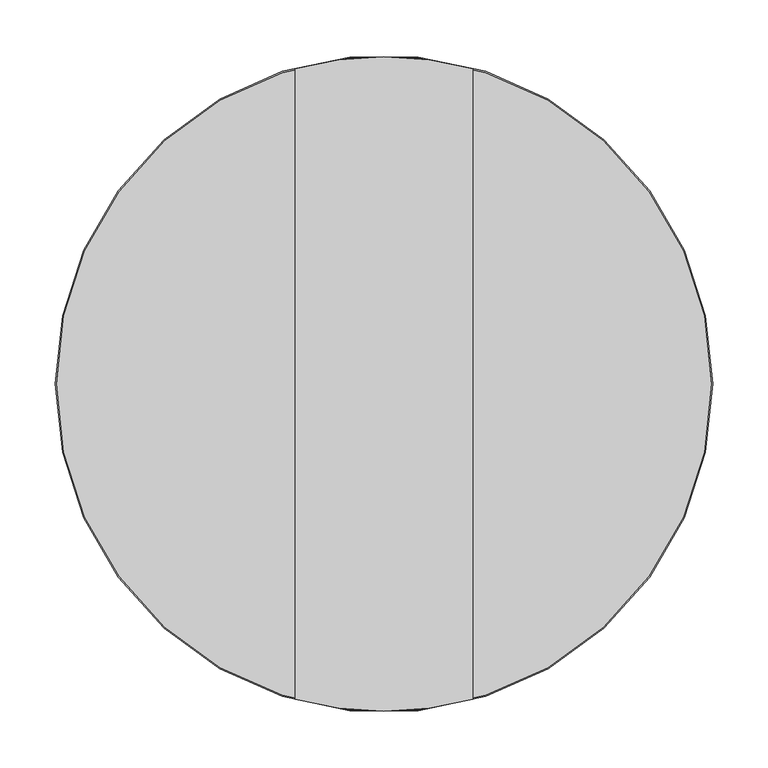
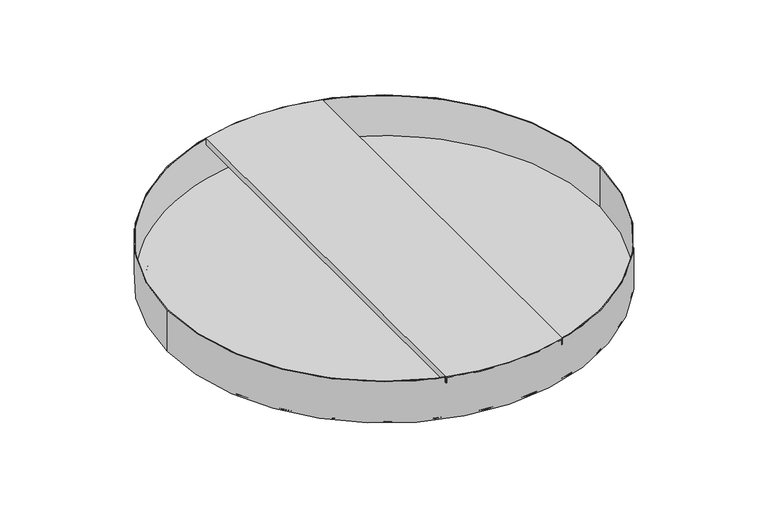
"""IFC4 building model written with IfcOpenShell, lengths in millimetres: proxy geometry, durlum_TOMEO-R : durlum_TOMEO-R 600 WS."""

from ifc_helpers import new_model, si_unit, point, frame, origin, origin_with_axes, origin_2d, place, context, project, spatial, circle_curve, trimmed, segment, composite_curve, outline, extrude, source, transform, mapped, element, save
from ifc_brep_helpers import plane_surface, cylinder_surface, advanced_brep


def generic_models_a7a96dfa(model_context):
    return source(origin(), model_context, "Body", "SolidModel", [
        advanced_brep(
        [(-80.0, 284.4648484, 60.0), (-80.0, -284.4648484, 60.0), (0.0, -295.5, 60.0), (80.0, -284.4648484, 60.0), (80.0, 284.4648484, 60.0), (0.0, 295.5, 60.0), (80.0, -284.4648484, 51.2547795), (80.0, 284.4648484, 51.2547795), (78.5, -284.8824319, 51.2547795), (78.5, 284.8824319, 51.2547795), (78.5, -284.8824319, 58.5), (78.5, 284.8824319, 58.5), (0.0, -295.5, 58.5), (-78.5, -284.8824319, 58.5), (-78.5, 284.8824319, 58.5), (0.0, 295.5, 58.5), (-78.5, -284.8824319, 51.2547795), (-78.5, 284.8824319, 51.2547795), (-80.0, -284.4648484, 51.2547795), (-80.0, 284.4648484, 51.2547795)],
        [
            (0, 1),
            (1, 2, circle_curve(frame((0.0, 0.0, 60.0), z_axis=(0.0, 0.0, 1.0), x_axis=(0.0, -1.0, 0.0)), 295.5)),
            (2, 3, circle_curve(frame((0.0, 0.0, 60.0), z_axis=(0.0, 0.0, 1.0), x_axis=(0.0, -1.0, 0.0)), 295.5)),
            (3, 4),
            (4, 5, circle_curve(frame((0.0, 0.0, 60.0), z_axis=(0.0, 0.0, 1.0), x_axis=(0.0, -1.0, 0.0)), 295.5)),
            (5, 0, circle_curve(frame((0.0, 0.0, 60.0), z_axis=(0.0, 0.0, 1.0), x_axis=(0.0, -1.0, 0.0)), 295.5)),
            (3, 6),
            (6, 7),
            (7, 4),
            (6, 8, circle_curve(frame((0.0, 0.0, 51.2547795), z_axis=(0.0, 0.0, -1.0), x_axis=(0.0, -1.0, 0.0)), 295.5)),
            (8, 9),
            (9, 7, circle_curve(frame((0.0, 0.0, 51.2547795), z_axis=(0.0, 0.0, -1.0), x_axis=(0.0, -1.0, 0.0)), 295.5)),
            (8, 10),
            (10, 11),
            (11, 9),
            (10, 12, circle_curve(frame((0.0, 0.0, 58.5), z_axis=(0.0, 0.0, -1.0), x_axis=(0.0, -1.0, 0.0)), 295.5)),
            (12, 13, circle_curve(frame((0.0, 0.0, 58.5), z_axis=(0.0, 0.0, -1.0), x_axis=(0.0, -1.0, 0.0)), 295.5)),
            (13, 14),
            (14, 15, circle_curve(frame((0.0, 0.0, 58.5), z_axis=(0.0, 0.0, -1.0), x_axis=(0.0, -1.0, 0.0)), 295.5)),
            (15, 11, circle_curve(frame((0.0, 0.0, 58.5), z_axis=(0.0, 0.0, -1.0), x_axis=(0.0, -1.0, 0.0)), 295.5)),
            (13, 16),
            (16, 17),
            (17, 14),
            (16, 18, circle_curve(frame((0.0, 0.0, 51.2547795), z_axis=(0.0, 0.0, -1.0), x_axis=(0.0, -1.0, 0.0)), 295.5)),
            (18, 19),
            (19, 17, circle_curve(frame((0.0, 0.0, 51.2547795), z_axis=(0.0, 0.0, -1.0), x_axis=(0.0, -1.0, 0.0)), 295.5)),
            (0, 19),
            (18, 1),
            (5, 15),
            (12, 2),
        ],
        [
            plane_surface(frame((-80.0, 295.5, 60.0), z_axis=(0.0, 0.0, 1.0), x_axis=(0.0, -1.0, 0.0))),
            plane_surface(frame((80.0, 295.5, 60.0), z_axis=(1.0, 0.0, 0.0), x_axis=(0.0, -1.0, 0.0))),
            plane_surface(frame((80.0, 295.5, 51.2547795), z_axis=(0.0, 0.0, -1.0), x_axis=(0.0, -1.0, 0.0))),
            plane_surface(frame((78.5, 295.5, 51.2547795), z_axis=(-1.0, 0.0, 0.0), x_axis=(0.0, -1.0, 0.0))),
            plane_surface(frame((78.5, 295.5, 58.5), z_axis=(0.0, 0.0, -1.0), x_axis=(0.0, -1.0, 0.0))),
            plane_surface(frame((-78.5, 295.5, 58.5), z_axis=(1.0, 0.0, 0.0), x_axis=(0.0, -1.0, 0.0))),
            plane_surface(frame((-78.5, 295.5, 51.2547795), z_axis=(0.0, 0.0, -1.0), x_axis=(0.0, -1.0, 0.0))),
            plane_surface(frame((-80.0, 295.5, 51.2547795), z_axis=(-1.0, 0.0, 0.0), x_axis=(0.0, -1.0, 0.0))),
            cylinder_surface(frame((0.0, 0.0, 243.6547052), z_axis=(0.0, 0.0, -1.0), x_axis=(0.0, -1.0, 0.0)), 295.5),
        ],
        [
            (0, [[1, 2, 3, 4, 5, 6]]),
            (1, [[-4, 7, 8, 9]]),
            (2, [[-8, 10, 11, 12]]),
            (3, [[-11, 13, 14, 15]]),
            (4, [[-14, 16, 17, 18, 19, 20]]),
            (5, [[-18, 21, 22, 23]]),
            (6, [[-22, 24, 25, 26]]),
            (7, [[-1, 27, -25, 28]]),
            (8, [[29, -19, -23, -26, -27, -6]]),
            (8, [[30, -2, -28, -24, -21, -17]]),
            (8, [[-29, -5, -9, -12, -15, -20]]),
            (8, [[-30, -16, -13, -10, -7, -3]]),
        ],
    ),
        extrude(outline(composite_curve([segment(trimmed(circle_curve(origin_2d(), 295.5), [point((-295.5, 0.0))], [point((295.5, 0.0))], False, "CARTESIAN"), True, "CONTINUOUS"), segment(trimmed(circle_curve(origin_2d(), 295.5), [point((295.5, 0.0))], [point((-295.5, 0.0))], False, "CARTESIAN"), True, "CONTINUOUS")], self_intersect=False)), frame((0.0, 0.0, 1.0), z_axis=(0.0, 0.0, 1.0), x_axis=(1.0, 0.0, 0.0)), (0.0, 0.0, 1.0), 1.0),
        extrude(outline(composite_curve([segment(trimmed(circle_curve(origin_2d(), 281.5), [point((-281.5, 0.0))], [point((281.5, 0.0))], False, "CARTESIAN"), True, "CONTINUOUS"), segment(trimmed(circle_curve(origin_2d(), 281.5), [point((281.5, 0.0))], [point((-281.5, 0.0))], False, "CARTESIAN"), True, "CONTINUOUS")], self_intersect=False)), origin_with_axes(), (0.0, 0.0, 1.0), 1.0),
        extrude(outline(composite_curve([segment(trimmed(circle_curve(origin_2d(), 295.5), [point((-295.5, 0.0))], [point((295.5, 0.0))], False, "CARTESIAN"), True, "CONTINUOUS"), segment(trimmed(circle_curve(origin_2d(), 295.5), [point((295.5, 0.0))], [point((-295.5, 0.0))], False, "CARTESIAN"), True, "CONTINUOUS")], self_intersect=False), holes=[composite_curve([segment(trimmed(circle_curve(origin_2d(), 281.5), [point((-281.5, 0.0))], [point((281.5, 0.0))], True, "CARTESIAN"), True, "CONTINUOUS"), segment(trimmed(circle_curve(origin_2d(), 281.5), [point((281.5, 0.0))], [point((-281.5, 0.0))], True, "CARTESIAN"), True, "CONTINUOUS")], self_intersect=False)]), origin_with_axes(), (0.0, 0.0, 1.0), 1.0),
        extrude(outline(composite_curve([segment(trimmed(circle_curve(origin_2d(), 296.5), [point((-296.5, 0.0))], [point((296.5, 0.0))], False, "CARTESIAN"), True, "CONTINUOUS"), segment(trimmed(circle_curve(origin_2d(), 296.5), [point((296.5, 0.0))], [point((-296.5, 0.0))], False, "CARTESIAN"), True, "CONTINUOUS")], self_intersect=False), holes=[composite_curve([segment(trimmed(circle_curve(origin_2d(), 295.5), [point((-295.5, 0.0))], [point((295.5, 0.0))], True, "CARTESIAN"), True, "CONTINUOUS"), segment(trimmed(circle_curve(origin_2d(), 295.5), [point((295.5, 0.0))], [point((-295.5, 0.0))], True, "CARTESIAN"), True, "CONTINUOUS")], self_intersect=False)]), origin_with_axes(), (0.0, 0.0, 1.0), 60.0),
    ])


if __name__ == "__main__":
    model = new_model("IFC4")
    model_context = context("Model", 3, world=origin())
    ifc_project = project(units=[si_unit("LENGTHUNIT", "METRE", prefix="MILLI")], contexts=[model_context])
    site = spatial("IfcSite", under=ifc_project)
    building = spatial("IfcBuilding", under=site)
    placement = place(None, origin())
    generic_models_shape = generic_models_a7a96dfa(model_context)
    element("IfcBuildingElementProxy", 1, Name="durlum_TOMEO-R : durlum_TOMEO-R 600 WS", ObjectType="durlum_TOMEO-R : durlum_TOMEO-R 600 WS", at=placement, inside=building, context=model_context, shape_type="MappedRepresentation", body=[
        mapped(generic_models_shape, transform((0.0, 0.0, 0.0), x_axis=(1.0, 0.0, 0.0), y_axis=(0.0, 1.0, 0.0), z_axis=(0.0, 0.0, 1.0))),
    ])
    save(model, "model.ifc")
